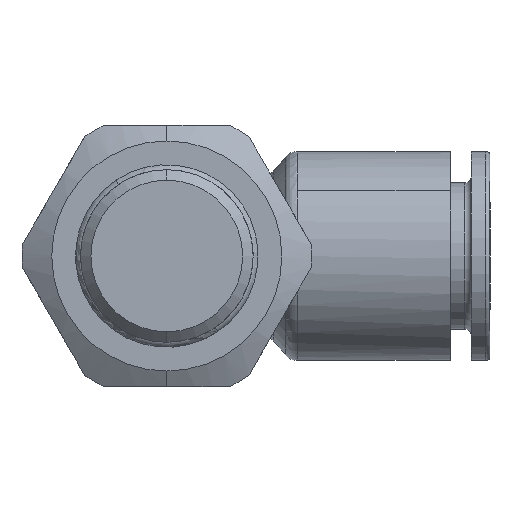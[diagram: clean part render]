
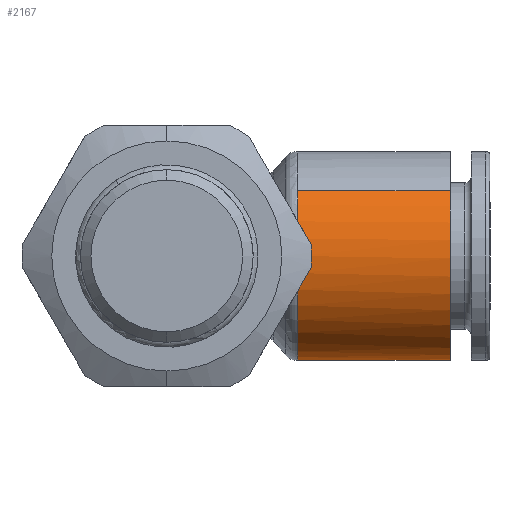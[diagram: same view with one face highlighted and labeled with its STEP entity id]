
A CAD part, left-side view. The second image highlights one B-rep face of the part: STEP entity #2167.
In plain terms, the highlighted cylindrical face has radius 10 mm (diameter 20 mm), a partial arc.
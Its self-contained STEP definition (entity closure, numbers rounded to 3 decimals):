
#124 = CARTESIAN_POINT ( 'NONE',  ( -7.807, -27.1, 6.249 ) ) ;
#397 = DIRECTION ( 'NONE',  ( 0., 1., 0. ) ) ;
#592 = ORIENTED_EDGE ( 'NONE', *, *, #13185, .T. ) ;
#675 = DIRECTION ( 'NONE',  ( 0., -1., 0. ) ) ;
#1136 = LINE ( 'NONE', #1594, #5858 ) ;
#1594 = CARTESIAN_POINT ( 'NONE',  ( 7.807, -19.7, -6.249 ) ) ;
#1598 = CARTESIAN_POINT ( 'NONE',  ( 7.807, -12.499, -6.249 ) ) ;
#1618 = EDGE_CURVE ( 'NONE', #9430, #4129, #15308, .T. ) ;
#1857 = ORIENTED_EDGE ( 'NONE', *, *, #10439, .T. ) ;
#1885 = LINE ( 'NONE', #4474, #9966 ) ;
#2167 = ADVANCED_FACE ( 'NONE', ( #6428 ), #2743, .T. ) ;
#2743 = CYLINDRICAL_SURFACE ( 'NONE', #8490, 10. ) ;
#3228 = DIRECTION ( 'NONE',  ( 0.781, 0., -0.625 ) ) ;
#3352 = ORIENTED_EDGE ( 'NONE', *, *, #4593, .T. ) ;
#4129 = VERTEX_POINT ( 'NONE', #124 ) ;
#4474 = CARTESIAN_POINT ( 'NONE',  ( -7.807, -19.7, 6.249 ) ) ;
#4558 = VERTEX_POINT ( 'NONE', #14580 ) ;
#4593 = EDGE_CURVE ( 'NONE', #4129, #4558, #1885, .T. ) ;
#4612 = CARTESIAN_POINT ( 'NONE',  ( 0., -12.499, 0. ) ) ;
#5065 = CIRCLE ( 'NONE', #7235, 10. ) ;
#5137 = DIRECTION ( 'NONE',  ( 0.781, 0., -0.625 ) ) ;
#5631 = VERTEX_POINT ( 'NONE', #1598 ) ;
#5858 = VECTOR ( 'NONE', #9122, 1000. ) ;
#6000 = DIRECTION ( 'NONE',  ( 0., -1., 0. ) ) ;
#6211 = CARTESIAN_POINT ( 'NONE',  ( -10., -12.499, 0. ) ) ;
#6228 = EDGE_LOOP ( 'NONE', ( #6652, #3352, #1857, #592, #15642 ) ) ;
#6428 = FACE_OUTER_BOUND ( 'NONE', #6228, .T. ) ;
#6652 = ORIENTED_EDGE ( 'NONE', *, *, #1618, .T. ) ;
#7235 = AXIS2_PLACEMENT_3D ( 'NONE', #12393, #6000, #11155 ) ;
#8490 = AXIS2_PLACEMENT_3D ( 'NONE', #12051, #397, #3228 ) ;
#9122 = DIRECTION ( 'NONE',  ( 0., 1., 0. ) ) ;
#9306 = AXIS2_PLACEMENT_3D ( 'NONE', #4612, #675, #10758 ) ;
#9430 = VERTEX_POINT ( 'NONE', #10336 ) ;
#9653 = DIRECTION ( 'NONE',  ( 0., 1., 0. ) ) ;
#9966 = VECTOR ( 'NONE', #9653, 1000. ) ;
#10210 = VERTEX_POINT ( 'NONE', #6211 ) ;
#10336 = CARTESIAN_POINT ( 'NONE',  ( 7.807, -27.1, -6.249 ) ) ;
#10439 = EDGE_CURVE ( 'NONE', #4558, #10210, #5065, .T. ) ;
#10758 = DIRECTION ( 'NONE',  ( 1., 0., 0. ) ) ;
#11155 = DIRECTION ( 'NONE',  ( 1., 0., 0. ) ) ;
#11912 = AXIS2_PLACEMENT_3D ( 'NONE', #16138, #16363, #5137 ) ;
#12051 = CARTESIAN_POINT ( 'NONE',  ( 0., -19.7, 0. ) ) ;
#12393 = CARTESIAN_POINT ( 'NONE',  ( 0., -12.499, 0. ) ) ;
#13128 = EDGE_CURVE ( 'NONE', #9430, #5631, #1136, .T. ) ;
#13185 = EDGE_CURVE ( 'NONE', #10210, #5631, #16385, .T. ) ;
#14580 = CARTESIAN_POINT ( 'NONE',  ( -7.807, -12.499, 6.249 ) ) ;
#15308 = CIRCLE ( 'NONE', #11912, 10. ) ;
#15642 = ORIENTED_EDGE ( 'NONE', *, *, #13128, .F. ) ;
#16138 = CARTESIAN_POINT ( 'NONE',  ( 0., -27.1, 0. ) ) ;
#16363 = DIRECTION ( 'NONE',  ( 0., 1., 0. ) ) ;
#16385 = CIRCLE ( 'NONE', #9306, 10. ) ;
